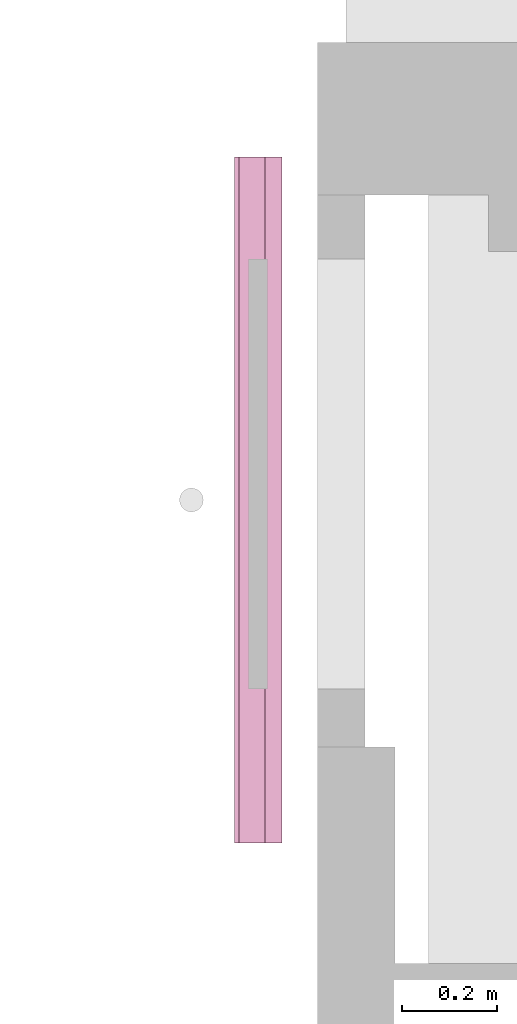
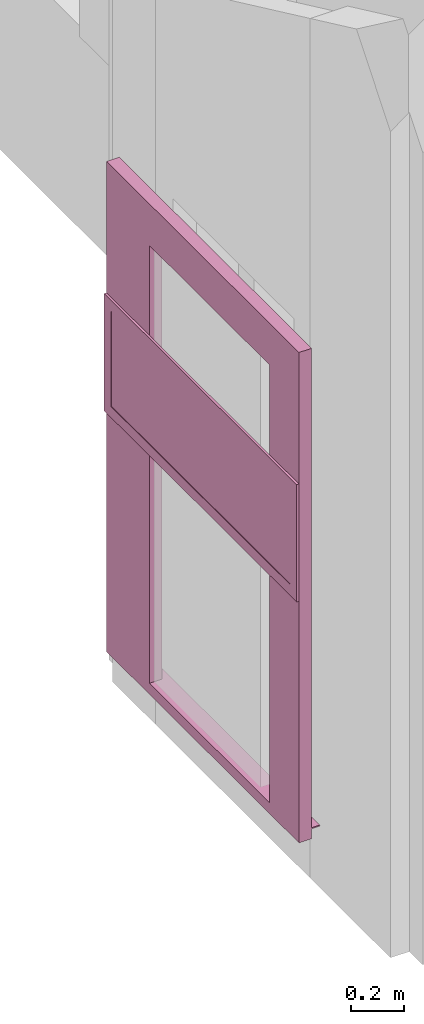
# One storey, part 6 of 6: 2 transport elements.
"""IFC2X3 building model written with IfcOpenShell, lengths in millimetres."""

from ifc_helpers import new_model, entity, si_unit, converted_unit, derived_unit, direction, frame, frame_2d, origin, origin_2d_with_axis, place, context, subcontext, project, spatial, polyline, rectangle, outline, extrude, source, transform, mapped, material, material_list, type_object, type_shapes, element, save


model = new_model("IFC2X3")

# Units and contexts
model_context = context("Model", 3, precision=0.01, world=origin(), true_north=direction((6.12303176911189e-17, 1.0)))
body_context = subcontext(model_context, "Body", "Model", "MODEL_VIEW")
ifc_project = project(units=[si_unit("LENGTHUNIT", "METRE", prefix="MILLI"), si_unit("AREAUNIT", "SQUARE_METRE"), si_unit("VOLUMEUNIT", "CUBIC_METRE"), converted_unit("PLANEANGLEUNIT", "DEGREE", entity("IfcRatioMeasure", 0.0174532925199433), si_unit("PLANEANGLEUNIT", "RADIAN"), dimensions=[0, 0, 0, 0, 0, 0, 0]), si_unit("MASSUNIT", "GRAM", prefix="KILO"), derived_unit("MASSDENSITYUNIT", [(si_unit("MASSUNIT", "GRAM", prefix="KILO"), 1), (si_unit("LENGTHUNIT", "METRE"), -3)]), si_unit("TIMEUNIT", "SECOND"), si_unit("FREQUENCYUNIT", "HERTZ"), si_unit("THERMODYNAMICTEMPERATUREUNIT", "DEGREE_CELSIUS"), derived_unit("THERMALTRANSMITTANCEUNIT", [(si_unit("MASSUNIT", "GRAM", prefix="KILO"), 1), (si_unit("THERMODYNAMICTEMPERATUREUNIT", "KELVIN"), -1), (si_unit("TIMEUNIT", "SECOND"), -3)]), derived_unit("VOLUMETRICFLOWRATEUNIT", [(si_unit("LENGTHUNIT", "METRE"), 3), (si_unit("TIMEUNIT", "SECOND"), -1)]), si_unit("ELECTRICCURRENTUNIT", "AMPERE"), si_unit("ELECTRICVOLTAGEUNIT", "VOLT"), si_unit("POWERUNIT", "WATT"), si_unit("FORCEUNIT", "NEWTON", prefix="KILO"), si_unit("ILLUMINANCEUNIT", "LUX"), si_unit("LUMINOUSFLUXUNIT", "LUMEN"), si_unit("LUMINOUSINTENSITYUNIT", "CANDELA"), derived_unit("USERDEFINED", [(si_unit("MASSUNIT", "GRAM", prefix="KILO"), -1), (si_unit("LENGTHUNIT", "METRE"), -2), (si_unit("TIMEUNIT", "SECOND"), 3), (si_unit("LUMINOUSFLUXUNIT", "LUMEN"), 1)]), derived_unit("LINEARVELOCITYUNIT", [(si_unit("LENGTHUNIT", "METRE"), 1), (si_unit("TIMEUNIT", "SECOND"), -1)]), si_unit("PRESSUREUNIT", "PASCAL"), derived_unit("USERDEFINED", [(si_unit("LENGTHUNIT", "METRE"), -2), (si_unit("MASSUNIT", "GRAM", prefix="KILO"), 1), (si_unit("TIMEUNIT", "SECOND"), -2)])], contexts=[model_context])

# Site, building, storey
site_placement = place(None, frame((-151.875543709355, 2715.0, 0.0)))
site = spatial("IfcSite", under=ifc_project, at=site_placement, Name="Surface", CompositionType="ELEMENT")
building_placement = place(site_placement, origin())
building = spatial("IfcBuilding", under=site, at=building_placement, CompositionType="ELEMENT")
storey_placement = place(building_placement, frame((0.0, 0.0, 13600.0)))
storey = spatial("IfcBuildingStorey", under=building, at=storey_placement, Name="Katusekorrus", CompositionType="ELEMENT", Elevation=13600.0000000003)

# Transport elements
ifc_material_1 = material(Name="Kalea_RAL_9016")
transport_element_type_1 = type_object("IfcTransportElementType", Name="1100 x 1467 - Left hinged", PredefinedType="NOTDEFINED", material=ifc_material_1)
shared_shape_1 = source(origin(), body_context, "Body", "SweptSolid", [
    extrude(outline(polyline([(-31.6666666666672, -31.6666666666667), (18.3333333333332, -31.6666666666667), (18.3333333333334, 58.3333333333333), (13.3333333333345, 58.3333333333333), (13.3333333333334, -26.6666666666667), (-31.6666666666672, -26.6666666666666), (-31.6666666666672, -31.6666666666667)])), frame((0.0, -31.6666666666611, 31.6666666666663), z_axis=(1.0, 0.0, 0.0), x_axis=(0.0, 0.0, 1.0)), (0.0, 0.0, 1.0), 1440.0),
    extrude(outline(polyline([(-720.0, -1120.0), (720.0, -1120.0), (720.0, 1120.0), (-720.0, 1120.0), (-720.0, -1120.0)]), holes=[polyline([(-500.0, -930.0), (-500.0, 1070.0), (400.0, 1070.0), (400.0, -930.0), (-500.0, -930.0)])]), frame((720.0, -55.0, 1120.0), z_axis=(0.0, 1.0, 0.0), x_axis=(1.0, 0.0, 0.0)), (0.0, 0.0, 1.0), 55.0),
])
type_shapes(transport_element_type_1, [shared_shape_1])
transport_element_1_placement = place(storey_placement, frame((-706.883383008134, 4570.0, 341.057643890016), z_axis=(0.0, 0.0, 1.0), x_axis=(0.0, 1.0, 0.0)))
element("IfcTransportElement", 1, at=transport_element_1_placement, inside=storey, type_object=transport_element_type_1, material=ifc_material_1, Name="A-side_Door_EI60G:1100 x 1467 - Left hinged", ObjectType="1100 x 1467 - Left hinged", CapacityByNumber=0.0, CapacityByWeight=0.0, OperationType="NOTDEFINED", context=body_context, shape_type="MappedRepresentation", body=[
    mapped(shared_shape_1, transform((0.0, 0.0, 0.0), scale=1.0)),
])
ifc_material_2 = material(Name="Kalea_glass")
ifc_material_3 = material(Name="Kalea_glass_black")
ifc_material_list_1 = material_list([ifc_material_2, ifc_material_3, ifc_material_1])
ifc_material_list_2 = material_list([ifc_material_2, ifc_material_3, ifc_material_1])
transport_element_type_2 = type_object("IfcTransportElementType", Name="1100 x 1467 - 536", PredefinedType="NOTDEFINED", material=ifc_material_list_2)
shared_shape_2 = source(origin(), body_context, "Body", "SweptSolid", [
    extrude(rectangle(XDim=4.0, YDim=1020.00000000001, at=origin_2d_with_axis()), frame((880.0, 15.0, 50.0), z_axis=(0.0, 0.0, 1.0), x_axis=(0.0, 1.0, 0.0)), (0.0, 0.0, 1.0), 436.0),
    extrude(rectangle(XDim=4.0, YDim=320.0, at=frame_2d((-2.1094237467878e-15, -1.4210854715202e-14), x_axis=(1.0, 0.0))), frame((210.0, 15.0, 50.0), z_axis=(0.0, 0.0, 1.0), x_axis=(0.0, 1.0, 0.0)), (0.0, 0.0, 1.0), 436.0),
    extrude(outline(polyline([(-720.0, -268.0), (720.0, -268.0), (720.0, 268.0), (-720.0, 268.0), (-720.0, -268.0)]), holes=[polyline([(-670.0, -218.0), (-670.0, 218.0), (670.0, 218.0), (670.0, -218.0), (-670.0, -218.0)])]), frame((720.0, 10.0, 268.0), z_axis=(0.0, 1.0, 0.0), x_axis=(1.0, 0.0, 0.0)), (0.0, 0.0, 1.0), 9.99999999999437),
])
type_shapes(transport_element_type_2, [shared_shape_2])
transport_element_2_placement = place(storey_placement, frame((-726.883383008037, 6010.0, 1445.0), z_axis=(0.0, 0.0, 1.0), x_axis=(0.0, -1.0, 0.0)))
element("IfcTransportElement", 2, at=transport_element_2_placement, inside=storey, type_object=transport_element_type_2, material=ifc_material_list_1, Name="C-side_Glass Panel:1100 x 1467 - 536", ObjectType="1100 x 1467 - 536", CapacityByNumber=0.0, CapacityByWeight=0.0, OperationType="NOTDEFINED", context=body_context, shape_type="MappedRepresentation", body=[
    mapped(shared_shape_2, transform((0.0, 0.0, 0.0), scale=1.0)),
])

save(model, "model.ifc")
